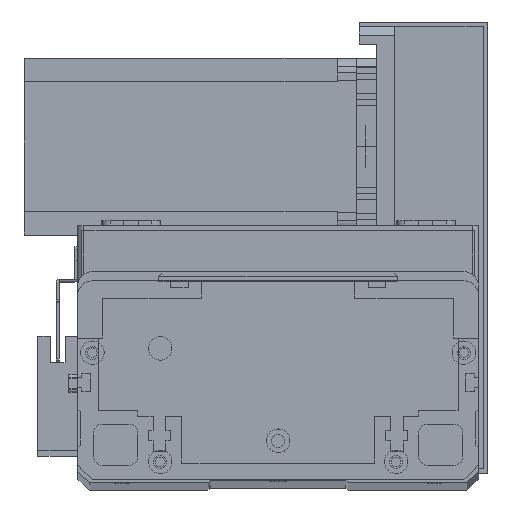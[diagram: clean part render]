
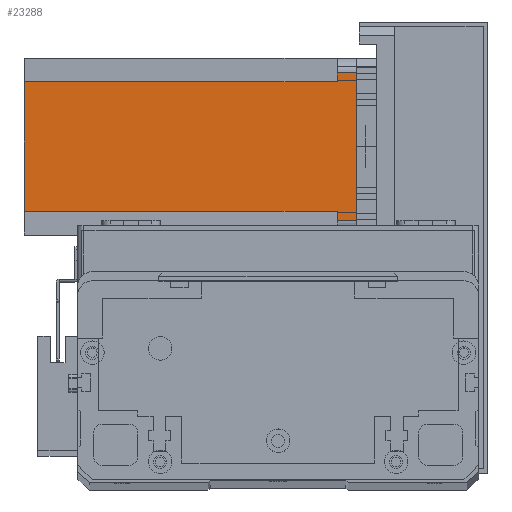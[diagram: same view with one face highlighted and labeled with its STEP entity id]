
A CAD part, top view. The second image highlights one B-rep face of the part: STEP entity #23288.
In plain terms, the highlighted planar face has unit normal (0, 0, 1) as drawn and (0, 1, 0) by its records, which use the part's own axes.
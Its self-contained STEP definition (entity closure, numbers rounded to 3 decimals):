
#74 = EDGE_CURVE ( 'NONE', #13686, #9363, #26766, .T. ) ;
#149 = CARTESIAN_POINT ( 'NONE',  ( 0., 60., -112.5 ) ) ;
#192 = DIRECTION ( 'NONE',  ( -1., 0., 0. ) ) ;
#689 = CARTESIAN_POINT ( 'NONE',  ( 5., 60., 0. ) ) ;
#1195 = AXIS2_PLACEMENT_3D ( 'NONE', #1887, #29078, #4248 ) ;
#1770 = DIRECTION ( 'NONE',  ( -1., 0., 0. ) ) ;
#1887 = CARTESIAN_POINT ( 'NONE',  ( 0., 60., -112.5 ) ) ;
#2097 = VERTEX_POINT ( 'NONE', #14174 ) ;
#2457 = CARTESIAN_POINT ( 'NONE',  ( 8., 60., -6.5 ) ) ;
#2682 = VERTEX_POINT ( 'NONE', #4861 ) ;
#3935 = EDGE_CURVE ( 'NONE', #11528, #24655, #10738, .T. ) ;
#4241 = ORIENTED_EDGE ( 'NONE', *, *, #3935, .T. ) ;
#4248 = DIRECTION ( 'NONE',  ( 0., 0., 1. ) ) ;
#4746 = ORIENTED_EDGE ( 'NONE', *, *, #11496, .F. ) ;
#4861 = CARTESIAN_POINT ( 'NONE',  ( 5., 60., -6.5 ) ) ;
#5202 = ORIENTED_EDGE ( 'NONE', *, *, #26299, .F. ) ;
#5811 = VERTEX_POINT ( 'NONE', #21933 ) ;
#6235 = EDGE_CURVE ( 'NONE', #13686, #2097, #22986, .T. ) ;
#6726 = VERTEX_POINT ( 'NONE', #689 ) ;
#7697 = VECTOR ( 'NONE', #13704, 1000. ) ;
#7761 = CARTESIAN_POINT ( 'NONE',  ( 8., 60., -112.5 ) ) ;
#8042 = VECTOR ( 'NONE', #192, 1000. ) ;
#9363 = VERTEX_POINT ( 'NONE', #7761 ) ;
#10069 = EDGE_CURVE ( 'NONE', #11528, #6726, #18560, .T. ) ;
#10287 = DIRECTION ( 'NONE',  ( 0., 0., -1. ) ) ;
#10684 = CARTESIAN_POINT ( 'NONE',  ( 55., 60., -112.5 ) ) ;
#10738 = LINE ( 'NONE', #10684, #22009 ) ;
#11496 = EDGE_CURVE ( 'NONE', #5811, #9363, #17067, .T. ) ;
#11528 = VERTEX_POINT ( 'NONE', #17325 ) ;
#11537 = VECTOR ( 'NONE', #14804, 1000. ) ;
#12875 = FACE_OUTER_BOUND ( 'NONE', #20543, .T. ) ;
#13686 = VERTEX_POINT ( 'NONE', #23494 ) ;
#13704 = DIRECTION ( 'NONE',  ( 1., 0., 0. ) ) ;
#14174 = CARTESIAN_POINT ( 'NONE',  ( 52., 60., -6.5 ) ) ;
#14804 = DIRECTION ( 'NONE',  ( 0., 0., 1. ) ) ;
#14831 = ORIENTED_EDGE ( 'NONE', *, *, #28193, .T. ) ;
#15575 = EDGE_CURVE ( 'NONE', #5811, #2682, #23859, .T. ) ;
#16820 = DIRECTION ( 'NONE',  ( 0., 0., 1. ) ) ;
#17058 = VECTOR ( 'NONE', #16820, 1000. ) ;
#17067 = LINE ( 'NONE', #17870, #22291 ) ;
#17118 = CARTESIAN_POINT ( 'NONE',  ( 52., 60., -112.5 ) ) ;
#17325 = CARTESIAN_POINT ( 'NONE',  ( 55., 60., 0. ) ) ;
#17512 = DIRECTION ( 'NONE',  ( -1., 0., 0. ) ) ;
#17636 = LINE ( 'NONE', #25978, #11537 ) ;
#17870 = CARTESIAN_POINT ( 'NONE',  ( 8., 60., -112.5 ) ) ;
#17958 = DIRECTION ( 'NONE',  ( 0., 0., -1. ) ) ;
#18250 = CARTESIAN_POINT ( 'NONE',  ( 52., 60., -6.5 ) ) ;
#18560 = LINE ( 'NONE', #19412, #28960 ) ;
#19412 = CARTESIAN_POINT ( 'NONE',  ( 0., 60., 0. ) ) ;
#19838 = LINE ( 'NONE', #18250, #7697 ) ;
#20543 = EDGE_LOOP ( 'NONE', ( #27798, #4241, #5202, #24412, #29179, #4746, #22882, #14831 ) ) ;
#21933 = CARTESIAN_POINT ( 'NONE',  ( 8., 60., -6.5 ) ) ;
#22009 = VECTOR ( 'NONE', #10287, 1000. ) ;
#22291 = VECTOR ( 'NONE', #17958, 1000. ) ;
#22882 = ORIENTED_EDGE ( 'NONE', *, *, #15575, .T. ) ;
#22986 = LINE ( 'NONE', #17118, #17058 ) ;
#23288 = ADVANCED_FACE ( 'NONE', ( #12875 ), #29174, .T. ) ;
#23494 = CARTESIAN_POINT ( 'NONE',  ( 52., 60., -112.5 ) ) ;
#23859 = LINE ( 'NONE', #2457, #24559 ) ;
#24412 = ORIENTED_EDGE ( 'NONE', *, *, #6235, .F. ) ;
#24559 = VECTOR ( 'NONE', #1770, 1000. ) ;
#24655 = VERTEX_POINT ( 'NONE', #29158 ) ;
#25978 = CARTESIAN_POINT ( 'NONE',  ( 5., 60., -112.5 ) ) ;
#26299 = EDGE_CURVE ( 'NONE', #2097, #24655, #19838, .T. ) ;
#26766 = LINE ( 'NONE', #149, #8042 ) ;
#27798 = ORIENTED_EDGE ( 'NONE', *, *, #10069, .F. ) ;
#28193 = EDGE_CURVE ( 'NONE', #2682, #6726, #17636, .T. ) ;
#28960 = VECTOR ( 'NONE', #17512, 1000. ) ;
#29078 = DIRECTION ( 'NONE',  ( 0., 1., 0. ) ) ;
#29158 = CARTESIAN_POINT ( 'NONE',  ( 55., 60., -6.5 ) ) ;
#29174 = PLANE ( 'NONE',  #1195 ) ;
#29179 = ORIENTED_EDGE ( 'NONE', *, *, #74, .T. ) ;
